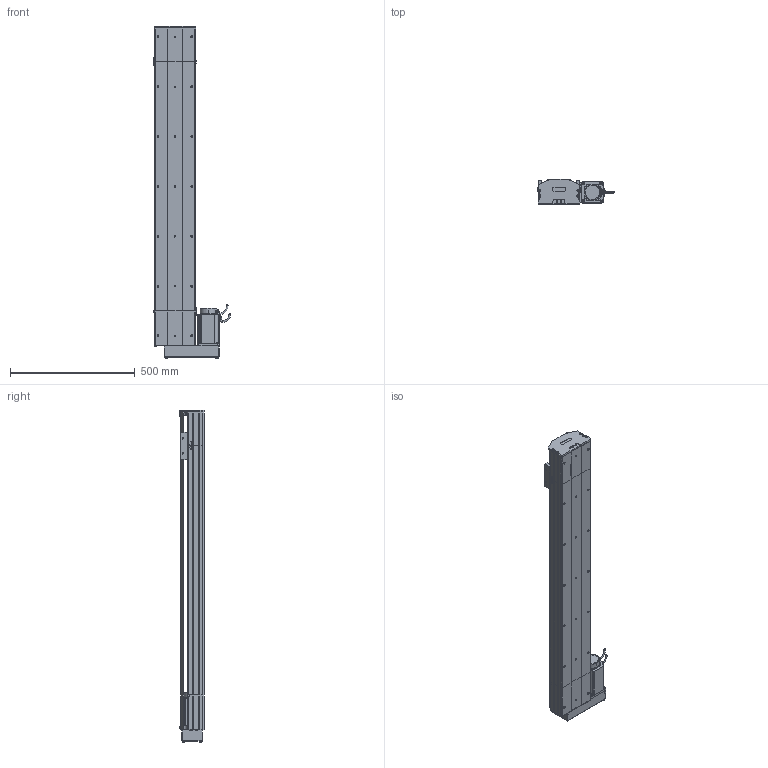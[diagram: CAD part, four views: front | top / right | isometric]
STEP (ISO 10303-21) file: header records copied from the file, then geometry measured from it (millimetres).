
FILE_DESCRIPTION (( 'STEP AP214' ), '1' );
FILE_NAME ('D17 TSN BL S1000.STEP', '2010-06-30T07:46:31', ( 'Christophe Gaillard' ), ( 'SGA' ), 'SwSTEP 2.0', 'SolidWorks 2010', '' );
FILE_SCHEMA (( 'AUTOMOTIVE_DESIGN' ));
Length unit declared in the file: millimetre
Products named in the file (33): D17 TSN BL S1000; corpl tail D17_Default; Tail D17_Default; course 1000 D17_Default; couvercle D17 course L1000_Default; plaque de  bout tail D17_Default; arbre + rail D17 Course 1000 ; corp D17 1000_Default; guide D17; Chariot D17 TBN; chariot D17 TSN; Arbre+rail tail D17; tete d''axe haut D17; tete d''axe bas D17; head BL_Default; vis M5 L25_Default; vis M5 L8 90°_Default; couvercle D17_Default; couvercle D17 head_Default; corpl head D17 BM_Default; Moteur motionking 90BLDC125A-640; vis M5 L5_Default; Arbre+rail head D17; plaque de  bout BM head D17_Default; codeur 90BLDC125-640; corps 90BLDC125A-640; avant 90BLDC125A-640; Vis M5 L16-2_Default; Conecteur_Default; Conecteur2_Default; Cvis M5 L70_Default; vis M5 L12_Default; renvoi BL_Default
Assembly tree (51 placements, depth 4):
  D17 TSN BL S1000
    head BL_Default
      plaque de  bout BM head D17_Default
      Cvis M5 L70_Default  x2
      vis M5 L12_Default  x8
      Moteur motionking 90BLDC125A-640
        corps 90BLDC125A-640
        Conecteur_Default
        codeur 90BLDC125-640
        avant 90BLDC125A-640
        Conecteur2_Default
      vis M5 L5_Default  x2
      renvoi BL_Default
      Vis M5 L16-2_Default  x4
      Arbre+rail head D17
      corpl head D17 BM_Default
      couvercle D17 head_Default
    chariot D17 TSN
      guide D17  x2
      Chariot D17 TBN
    course 1000 D17_Default
      corp D17 1000_Default
      couvercle D17 course L1000_Default
      arbre + rail D17 Course 1000 
    Tail D17_Default
      vis M5 L12_Default  x4
      vis M5 L8 90°_Default  x2
      corpl tail D17_Default
      couvercle D17_Default
      tete d''axe bas D17
      Arbre+rail tail D17
      vis M5 L25_Default  x2
      plaque de  bout tail D17_Default
      tete d''axe haut D17
Bounding box: 308.95 x 99.7 x 1332.7 mm (x, y, z)
Volume: 8616536.1 mm3; surface area: 2205321.2 mm2
Topology: 75 solids, 75 shells, 2141 faces, 5439 edges, 3516 vertices
Faces by surface type: plane 1322, cylinder 558, bspline 136, torus 65, cone 56, sphere 4
Entity records: 71832 total; most frequent: CARTESIAN_POINT 22680, ORIENTED_EDGE 8786, DIRECTION 8194, EDGE_CURVE 4393, LINE 3042, VECTOR 3042, VERTEX_POINT 2882, AXIS2_PLACEMENT_3D 2576
